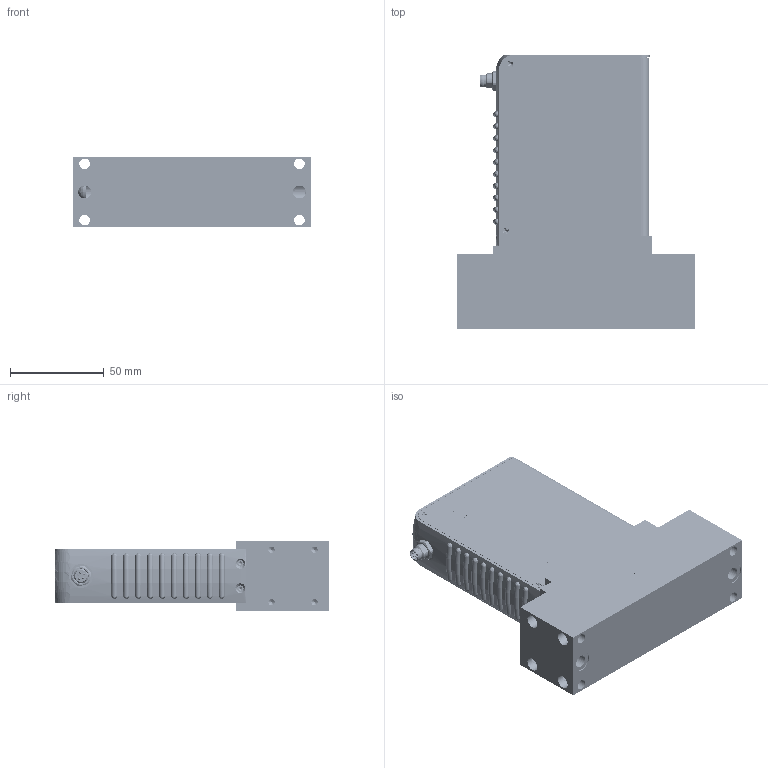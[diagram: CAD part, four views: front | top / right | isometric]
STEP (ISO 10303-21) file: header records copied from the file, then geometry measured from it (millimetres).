
FILE_DESCRIPTION (( 'STEP AP203' ), '1' );
FILE_NAME ('GF101-GF121-GF126-C2-E0_assy.STEP', '2022-06-30T11:49:17', ( '' ), ( '' ), 'SwSTEP 2.0', 'SolidWorks 2020', '' );
FILE_SCHEMA (( 'CONFIG_CONTROL_DESIGN' ));
Length unit declared in the file: inch
Products named in the file (6): 7002781_91500A126; 206Z415_WITHOUT LEADS; 092Y436; GF101-GF121-GF126-C2-E0_assy; GF101-GF121-GF126-XX-E0; 092Y427
Assembly tree (9 placements, depth 2):
  GF101-GF121-GF126-C2-E0_assy
    GF101-GF121-GF126-XX-E0
    7002781_91500A126  x5
    092Y427
    092Y436
    206Z415_WITHOUT LEADS
Bounding box: 127 x 146.05 x 37.59 mm (x, y, z)
Volume: 92860.4 mm3; surface area: 111746.4 mm2
Topology: 11 solids, 156 shells, 8443 faces, 22885 edges, 14760 vertices
Faces by surface type: plane 5331, cylinder 2000, bspline 616, cone 267, sphere 143, torus 86
Entity records: 300763 total; most frequent: CARTESIAN_POINT 100572, ORIENTED_EDGE 43374, DIRECTION 38184, EDGE_CURVE 21692, VECTOR 15374, LINE 15374, VERTEX_POINT 14096, AXIS2_PLACEMENT_3D 11405
